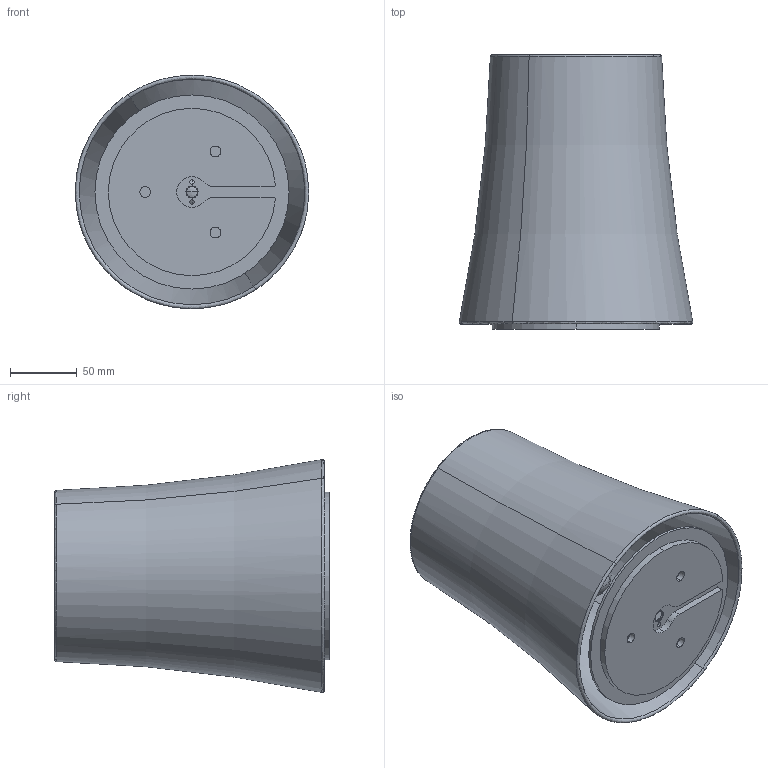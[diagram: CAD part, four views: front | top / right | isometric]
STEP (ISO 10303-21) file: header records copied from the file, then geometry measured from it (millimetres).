
FILE_DESCRIPTION (( 'STEP AP203' ), '1' );
FILE_NAME ('BIRDIE 0 PICCOLA TAVOLO.STEP', '2020-07-15T07:51:53', ( '' ), ( '' ), 'SwSTEP 2.0', 'SolidWorks 2020', '' );
FILE_SCHEMA (( 'CONFIG_CONTROL_DESIGN' ));
Length unit declared in the file: millimetre
Products named in the file (1): BIRDIE 0 PICCOLA  TAVOLO
Bounding box: 174.41 x 205.2 x 174.36 mm (x, y, z)
Volume: 536770.2 mm3; surface area: 275278.5 mm2
Topology: 4 solids, 4 shells, 108 faces, 257 edges, 152 vertices
Faces by surface type: torus 36, cylinder 34, cone 22, bspline 8, plane 6, sphere 2
Entity records: 4871 total; most frequent: CARTESIAN_POINT 2261, DIRECTION 588, ORIENTED_EDGE 508, AXIS2_PLACEMENT_3D 263, EDGE_CURVE 254, CIRCLE 162, VERTEX_POINT 152, EDGE_LOOP 120
